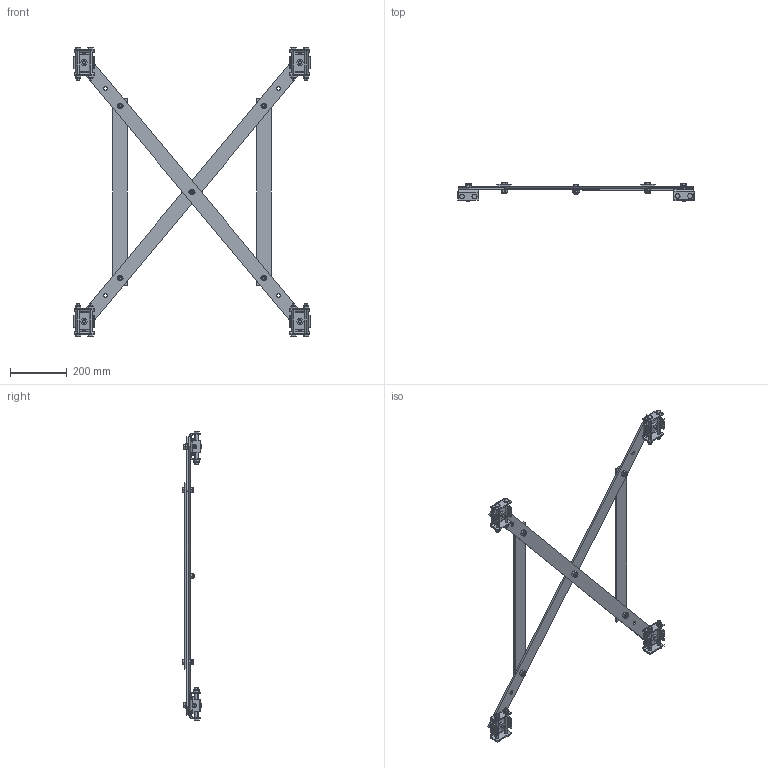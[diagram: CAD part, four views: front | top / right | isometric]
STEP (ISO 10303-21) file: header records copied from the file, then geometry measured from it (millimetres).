
FILE_DESCRIPTION (( 'STEP AP214' ), '1' );
FILE_NAME ('MRAA4205-36.001.STEP', '2018-11-19T18:53:58', ( 'IT' ), ( '' ), 'SwSTEP 2.0', 'SolidWorks 2018', '' );
FILE_SCHEMA (( 'AUTOMOTIVE_DESIGN' ));
Length unit declared in the file: inch
Products named in the file (13): MRAA4205-36.001; RAD4167.001; RAD4168.001; RWD4103.001; MRWD4089-01.001; HL3_M12; MRWD4089.001; M12_LOCK_WASHER; M12x1.75x_HHCS_50 MM Long; M12x1.75x_HHCS_30 MM Long; M12_NYLOK; M10_NYLOK; M10x1.5x_HHCS_110 MM Long
Assembly tree (48 placements, depth 3):
  MRAA4205-36.001
    RAD4167.001  x2
    RAD4168.001  x2
    RWD4103.001  x4
    MRWD4089.001  x4
      MRWD4089-01.001
      HL3_M12
    M12_LOCK_WASHER  x4
    M12x1.75x_HHCS_50 MM Long  x4
    M12x1.75x_HHCS_30 MM Long  x5
    M12_NYLOK  x5
    M10_NYLOK  x8
    M10x1.5x_HHCS_110 MM Long  x8
Bounding box: 835.02 x 68.2 x 1019.28 mm (x, y, z)
Volume: 1697151.5 mm3; surface area: 666364.1 mm2
Topology: 50 solids, 50 shells, 1154 faces, 2674 edges, 1646 vertices
Faces by surface type: plane 482, cylinder 378, torus 142, cone 136, bspline 16
Entity records: 9104 total; most frequent: CARTESIAN_POINT 2479, DIRECTION 1288, ORIENTED_EDGE 1176, EDGE_CURVE 588, AXIS2_PLACEMENT_3D 507, VERTEX_POINT 366, EDGE_LOOP 298, VECTOR 274
